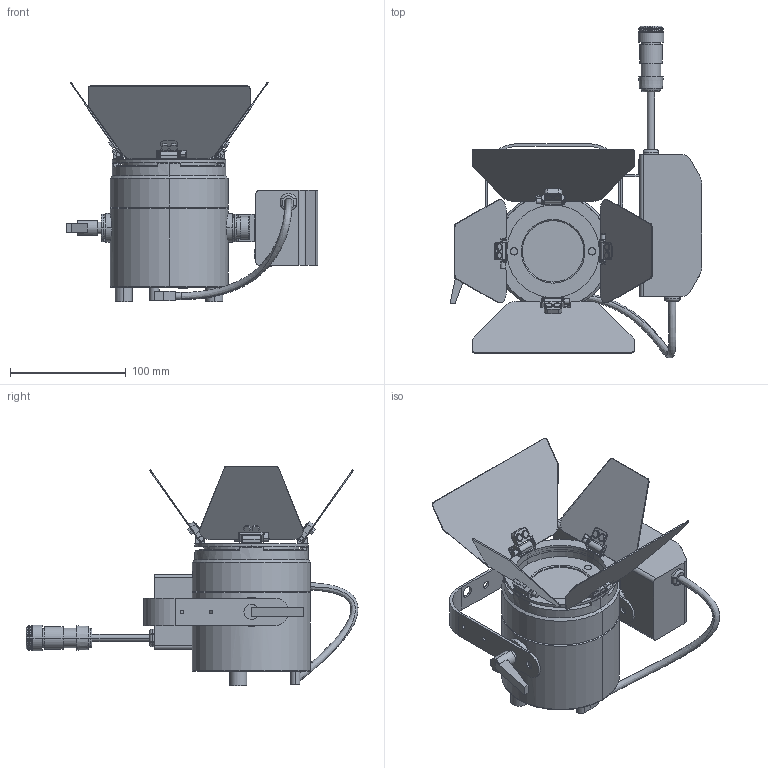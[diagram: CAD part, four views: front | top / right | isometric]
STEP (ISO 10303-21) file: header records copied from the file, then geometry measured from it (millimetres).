
FILE_DESCRIPTION (( 'STEP AP203' ), '1' );
FILE_NAME ('P3X(Clamp-W) Hanging.STEP', '2024-07-11T13:33:11', ( '' ), ( '' ), 'SwSTEP 2.0', 'SolidWorks 2014', '' );
FILE_SCHEMA (( 'CONFIG_CONTROL_DESIGN' ));
Length unit declared in the file: millimetre
Products named in the file (5): P3 Color(White) - Yoke for Track and Clamp; 3 inch 4-leaf Barndoor (for Clamp-W); P3X(Clamp-W) Hanging; PSU 90W Clamp Mount_Hanging (for P3X-W); P3 Color(White) - Light Body
Assembly tree (4 placements, depth 2):
  P3X(Clamp-W) Hanging
    P3 Color(White) - Yoke for Track and Clamp
    P3 Color(White) - Light Body
    3 inch 4-leaf Barndoor (for Clamp-W)
    PSU 90W Clamp Mount_Hanging (for P3X-W)
Bounding box: 217.64 x 286.74 x 189.86 mm (x, y, z)
Volume: 1319729.5 mm3; surface area: 208501 mm2
Topology: 79 solids, 90 shells, 1607 faces, 3906 edges, 2548 vertices
Faces by surface type: plane 862, cylinder 462, bspline 221, cone 52, torus 10
Entity records: 56297 total; most frequent: CARTESIAN_POINT 18703, ORIENTED_EDGE 7796, DIRECTION 7248, EDGE_CURVE 3898, VERTEX_POINT 2548, LINE 2438, VECTOR 2438, AXIS2_PLACEMENT_3D 2405
